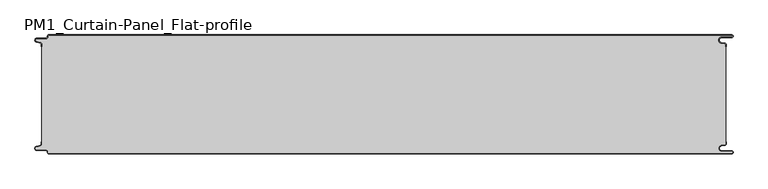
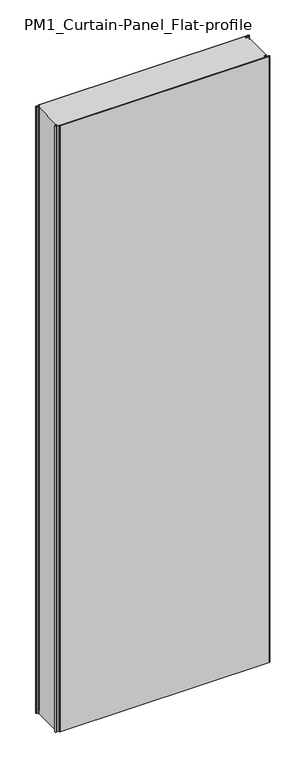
"""IFC4 building model written with IfcOpenShell, lengths in millimetres: plate geometry, PM1_Curtain-Panel_Flat-profile : ACH_PM1_Stone-wool-Panel_200M."""

from ifc_helpers import new_model, si_unit, point, frame_2d, origin, origin_with_axes, place, context, project, spatial, polyline, circle_curve, trimmed, segment, composite_curve, outline, extrude, source, transform, mapped, element, save


def pm1_curtain_panel_flat_profile_227fa7ea(model_context):
    return source(origin(), model_context, "Body", "SweptSolid", [
        extrude(outline(composite_curve([segment(polyline([(-562.4, 0.0), (583.1, 0.0)]), True, "CONTINUOUS"), segment(trimmed(circle_curve(frame_2d((583.1, -2.5)), 2.5), [point((583.1, 0.0))], [point((583.1, -5.0))], False, "CARTESIAN"), True, "CONTINUOUS"), segment(polyline([(583.1, -5.0), (566.1, -5.0)]), True, "CONTINUOUS"), segment(trimmed(circle_curve(frame_2d((566.1, -9.0)), 4.0), [point((566.1, -5.0))], [point((565.4054075, -12.939231))], True, "CARTESIAN"), True, "CONTINUOUS"), segment(polyline([(565.4054075, -12.939231), (571.8514851, -14.075848)]), True, "CONTINUOUS"), segment(trimmed(circle_curve(frame_2d((571.4, -16.636348)), 2.6), [point((571.8514851, -14.075848))], [point((574.0, -16.636348))], False, "CARTESIAN"), True, "CONTINUOUS"), segment(polyline([(574.0, -16.636348), (574.0, -20.0), (573.2, -20.0), (573.2, -16.636348)]), True, "CONTINUOUS"), segment(trimmed(circle_curve(frame_2d((571.4, -16.636348)), 1.8), [point((573.2, -16.636348))], [point((571.7125666, -14.863694))], True, "CARTESIAN"), True, "CONTINUOUS"), segment(polyline([(571.7125666, -14.863694), (565.266489, -13.7270771)]), True, "CONTINUOUS"), segment(trimmed(circle_curve(frame_2d((566.1, -9.0)), 4.8), [point((565.266489, -13.7270771))], [point((566.1, -4.2))], False, "CARTESIAN"), True, "CONTINUOUS"), segment(polyline([(566.1, -4.2), (583.1, -4.2)]), True, "CONTINUOUS"), segment(trimmed(circle_curve(frame_2d((583.1, -2.5)), 1.7), [point((583.1, -4.2))], [point((583.1, -0.8))], True, "CARTESIAN"), True, "CONTINUOUS"), segment(polyline([(583.1, -0.8), (-562.4, -0.8)]), True, "CONTINUOUS"), segment(trimmed(circle_curve(frame_2d((-562.4, -2.0)), 1.2), [point((-562.4, -0.8))], [point((-563.6, -2.0))], True, "CARTESIAN"), True, "CONTINUOUS"), segment(polyline([(-563.6, -2.0), (-563.6, -3.4)]), True, "CONTINUOUS"), segment(trimmed(circle_curve(frame_2d((-566.4, -3.4)), 2.8), [point((-563.6, -3.4))], [point((-566.4, -6.2))], False, "CARTESIAN"), True, "CONTINUOUS"), segment(polyline([(-566.4, -6.2), (-581.9, -6.2)]), True, "CONTINUOUS"), segment(trimmed(circle_curve(frame_2d((-581.9, -9.0)), 2.8), [point((-581.9, -6.2))], [point((-582.529863, -11.7282362))], True, "CARTESIAN"), True, "CONTINUOUS"), segment(polyline([(-582.529863, -11.7282362), (-576.370137, -13.150321)]), True, "CONTINUOUS"), segment(trimmed(circle_curve(frame_2d((-577.0, -15.878557)), 2.8), [point((-576.370137, -13.150321))], [point((-574.2, -15.878557))], False, "CARTESIAN"), True, "CONTINUOUS"), segment(polyline([(-574.2, -15.878557), (-574.2, -20.0), (-575.0, -20.0), (-575.0, -15.878557)]), True, "CONTINUOUS"), segment(trimmed(circle_curve(frame_2d((-577.0, -15.878557)), 2.0), [point((-575.0, -15.878557))], [point((-576.5500978, -13.9298169))], True, "CARTESIAN"), True, "CONTINUOUS"), segment(polyline([(-576.5500978, -13.9298169), (-582.7098239, -12.507732)]), True, "CONTINUOUS"), segment(trimmed(circle_curve(frame_2d((-581.9, -9.0)), 3.6), [point((-582.7098239, -12.507732))], [point((-581.9, -5.4))], False, "CARTESIAN"), True, "CONTINUOUS"), segment(polyline([(-581.9, -5.4), (-566.4, -5.4)]), True, "CONTINUOUS"), segment(trimmed(circle_curve(frame_2d((-566.4, -3.4)), 2.0), [point((-566.4, -5.4))], [point((-564.4, -3.4))], True, "CARTESIAN"), True, "CONTINUOUS"), segment(polyline([(-564.4, -3.4), (-564.4, -2.0)]), True, "CONTINUOUS"), segment(trimmed(circle_curve(frame_2d((-562.4, -2.0)), 2.0), [point((-564.4, -2.0))], [point((-562.4, 0.0))], False, "CARTESIAN"), True, "CONTINUOUS")], self_intersect=False)), origin_with_axes(), (0.0, 0.0, 1.0), 3500.0),
        extrude(outline(composite_curve([segment(polyline([(-574.2, -184.1214426), (-574.2, -15.8785573)]), True, "CONTINUOUS"), segment(trimmed(circle_curve(frame_2d((-577.0, -15.8785573)), 2.8), [point((-574.2, -15.8785573))], [point((-576.370137, -13.1503212))], True, "CARTESIAN"), True, "CONTINUOUS"), segment(polyline([(-576.370137, -13.1503212), (-582.5298631, -11.7282362)]), True, "CONTINUOUS"), segment(trimmed(circle_curve(frame_2d((-581.9, -9.0)), 2.8), [point((-582.5298631, -11.7282362))], [point((-581.9, -6.2))], False, "CARTESIAN"), True, "CONTINUOUS"), segment(polyline([(-581.9, -6.2), (-566.4000001, -6.2)]), True, "CONTINUOUS"), segment(trimmed(circle_curve(frame_2d((-566.4000001, -3.4)), 2.8), [point((-566.4000001, -6.2))], [point((-563.6000001, -3.4))], True, "CARTESIAN"), True, "CONTINUOUS"), segment(polyline([(-563.6000001, -3.4), (-563.6000001, -2.0)]), True, "CONTINUOUS"), segment(trimmed(circle_curve(frame_2d((-562.4000001, -2.0)), 1.2), [point((-563.6000001, -2.0))], [point((-562.4000001, -0.8))], False, "CARTESIAN"), True, "CONTINUOUS"), segment(polyline([(-562.4000001, -0.8), (583.1, -0.8)]), True, "CONTINUOUS"), segment(trimmed(circle_curve(frame_2d((583.1, -2.5)), 1.7), [point((583.1, -0.8))], [point((583.1, -4.2))], False, "CARTESIAN"), True, "CONTINUOUS"), segment(polyline([(583.1, -4.2), (566.1, -4.2)]), True, "CONTINUOUS"), segment(trimmed(circle_curve(frame_2d((566.1, -9.0)), 4.8), [point((566.1, -4.2))], [point((565.2664883, -13.7270771))], True, "CARTESIAN"), True, "CONTINUOUS"), segment(polyline([(565.2664883, -13.7270771), (571.7125668, -14.8636953)]), True, "CONTINUOUS"), segment(trimmed(circle_curve(frame_2d((571.4, -16.6363492)), 1.8), [point((571.7125668, -14.8636953))], [point((573.2, -16.6363492))], False, "CARTESIAN"), True, "CONTINUOUS"), segment(polyline([(573.2, -16.6363492), (573.2, -183.3636508)]), True, "CONTINUOUS"), segment(trimmed(circle_curve(frame_2d((571.4, -183.3636508)), 1.8), [point((573.2, -183.3636508))], [point((571.7125668, -185.1363047))], False, "CARTESIAN"), True, "CONTINUOUS"), segment(polyline([(571.7125668, -185.1363047), (565.2664883, -186.2729229)]), True, "CONTINUOUS"), segment(trimmed(circle_curve(frame_2d((566.1, -191.0)), 4.8), [point((565.2664883, -186.2729229))], [point((566.1, -195.8))], True, "CARTESIAN"), True, "CONTINUOUS"), segment(polyline([(566.1, -195.8), (583.1, -195.8)]), True, "CONTINUOUS"), segment(trimmed(circle_curve(frame_2d((583.1, -197.5)), 1.7), [point((583.1, -195.8))], [point((583.1, -199.2))], False, "CARTESIAN"), True, "CONTINUOUS"), segment(polyline([(583.1, -199.2), (-562.4000001, -199.2)]), True, "CONTINUOUS"), segment(trimmed(circle_curve(frame_2d((-562.4000001, -198.0)), 1.2), [point((-562.4000001, -199.2))], [point((-563.6000001, -198.0))], False, "CARTESIAN"), True, "CONTINUOUS"), segment(polyline([(-563.6000001, -198.0), (-563.6000001, -196.6)]), True, "CONTINUOUS"), segment(trimmed(circle_curve(frame_2d((-566.4000001, -196.6)), 2.8), [point((-563.6000001, -196.6))], [point((-566.4000001, -193.8))], True, "CARTESIAN"), True, "CONTINUOUS"), segment(polyline([(-566.4000001, -193.8), (-581.9, -193.8)]), True, "CONTINUOUS"), segment(trimmed(circle_curve(frame_2d((-581.9, -191.0)), 2.8), [point((-581.9, -193.8))], [point((-582.5298631, -188.2717638))], False, "CARTESIAN"), True, "CONTINUOUS"), segment(polyline([(-582.5298631, -188.2717638), (-576.370137, -186.8496788)]), True, "CONTINUOUS"), segment(trimmed(circle_curve(frame_2d((-577.0, -184.1214426)), 2.8), [point((-576.370137, -186.8496788))], [point((-574.2, -184.1214426))], True, "CARTESIAN"), True, "CONTINUOUS")], self_intersect=False)), origin_with_axes(), (0.0, 0.0, 1.0), 3500.0),
        extrude(outline(composite_curve([segment(polyline([(583.1, -200.0), (-562.4, -200.0)]), True, "CONTINUOUS"), segment(trimmed(circle_curve(frame_2d((-562.4, -198.0)), 2.0), [point((-562.4, -200.0))], [point((-564.4, -198.0))], False, "CARTESIAN"), True, "CONTINUOUS"), segment(polyline([(-564.4, -198.0), (-564.4, -196.6)]), True, "CONTINUOUS"), segment(trimmed(circle_curve(frame_2d((-566.4, -196.6)), 2.0), [point((-564.4, -196.6))], [point((-566.4, -194.6))], True, "CARTESIAN"), True, "CONTINUOUS"), segment(polyline([(-566.4, -194.6), (-581.9, -194.6)]), True, "CONTINUOUS"), segment(trimmed(circle_curve(frame_2d((-581.9, -191.0)), 3.6), [point((-581.9, -194.6))], [point((-582.7098239, -187.4922678))], False, "CARTESIAN"), True, "CONTINUOUS"), segment(polyline([(-582.7098239, -187.4922678), (-576.5500979, -186.070183)]), True, "CONTINUOUS"), segment(trimmed(circle_curve(frame_2d((-577.0, -184.121443)), 2.0), [point((-576.5500979, -186.070183))], [point((-575.0, -184.121443))], True, "CARTESIAN"), True, "CONTINUOUS"), segment(polyline([(-575.0, -184.121443), (-575.0, -180.0), (-574.2, -180.0), (-574.2, -184.121443)]), True, "CONTINUOUS"), segment(trimmed(circle_curve(frame_2d((-577.0, -184.121443)), 2.8), [point((-574.2, -184.121443))], [point((-576.370137, -186.8496792))], False, "CARTESIAN"), True, "CONTINUOUS"), segment(polyline([(-576.370137, -186.8496792), (-582.529863, -188.271764)]), True, "CONTINUOUS"), segment(trimmed(circle_curve(frame_2d((-581.9, -191.0)), 2.8), [point((-582.529863, -188.271764))], [point((-581.9, -193.8))], True, "CARTESIAN"), True, "CONTINUOUS"), segment(polyline([(-581.9, -193.8), (-566.4, -193.8)]), True, "CONTINUOUS"), segment(trimmed(circle_curve(frame_2d((-566.4, -196.6)), 2.8), [point((-566.4, -193.8))], [point((-563.6, -196.6))], False, "CARTESIAN"), True, "CONTINUOUS"), segment(polyline([(-563.6, -196.6), (-563.6, -198.0)]), True, "CONTINUOUS"), segment(trimmed(circle_curve(frame_2d((-562.4, -198.0)), 1.2), [point((-563.6, -198.0))], [point((-562.4, -199.2))], True, "CARTESIAN"), True, "CONTINUOUS"), segment(polyline([(-562.4, -199.2), (583.1, -199.2)]), True, "CONTINUOUS"), segment(trimmed(circle_curve(frame_2d((583.1, -197.5)), 1.7), [point((583.1, -199.2))], [point((583.1, -195.8))], True, "CARTESIAN"), True, "CONTINUOUS"), segment(polyline([(583.1, -195.8), (566.1, -195.8)]), True, "CONTINUOUS"), segment(trimmed(circle_curve(frame_2d((566.1, -191.0)), 4.8), [point((566.1, -195.8))], [point((565.266489, -186.2729227))], False, "CARTESIAN"), True, "CONTINUOUS"), segment(polyline([(565.266489, -186.2729227), (571.7125666, -185.1363058)]), True, "CONTINUOUS"), segment(trimmed(circle_curve(frame_2d((571.4, -183.363652)), 1.8), [point((571.7125666, -185.1363058))], [point((573.2, -183.363652))], True, "CARTESIAN"), True, "CONTINUOUS"), segment(polyline([(573.2, -183.363652), (573.2, -180.0), (574.0, -180.0), (574.0, -183.363652)]), True, "CONTINUOUS"), segment(trimmed(circle_curve(frame_2d((571.4, -183.363652)), 2.6), [point((574.0, -183.363652))], [point((571.8514851, -185.9241522))], False, "CARTESIAN"), True, "CONTINUOUS"), segment(polyline([(571.8514851, -185.9241522), (565.4054075, -187.0607691)]), True, "CONTINUOUS"), segment(trimmed(circle_curve(frame_2d((566.1, -191.0)), 4.0), [point((565.4054075, -187.0607691))], [point((566.1, -195.0))], True, "CARTESIAN"), True, "CONTINUOUS"), segment(polyline([(566.1, -195.0), (583.1, -195.0)]), True, "CONTINUOUS"), segment(trimmed(circle_curve(frame_2d((583.1, -197.5)), 2.5), [point((583.1, -195.0))], [point((583.1, -200.0))], False, "CARTESIAN"), True, "CONTINUOUS")], self_intersect=False)), origin_with_axes(), (0.0, 0.0, 1.0), 3500.0),
    ])


if __name__ == "__main__":
    model = new_model("IFC4")
    model_context = context("Model", 3, world=origin())
    ifc_project = project(units=[si_unit("LENGTHUNIT", "METRE", prefix="MILLI")], contexts=[model_context])
    site = spatial("IfcSite", under=ifc_project)
    building = spatial("IfcBuilding", under=site)
    placement = place(None, origin())
    pm1_curtain_panel_flat_profile_shape = pm1_curtain_panel_flat_profile_227fa7ea(model_context)
    element("IfcPlate", 1, ObjectType="PM1_Curtain-Panel_Flat-profile : ACH_PM1_Stone-wool-Panel_200M", at=placement, inside=building, context=model_context, shape_type="MappedRepresentation", body=[
        mapped(pm1_curtain_panel_flat_profile_shape, transform((0.0, 0.0, 0.0), x_axis=(1.0, 0.0, 0.0), y_axis=(0.0, 1.0, 0.0), z_axis=(0.0, 0.0, 1.0))),
    ])
    save(model, "model.ifc")
